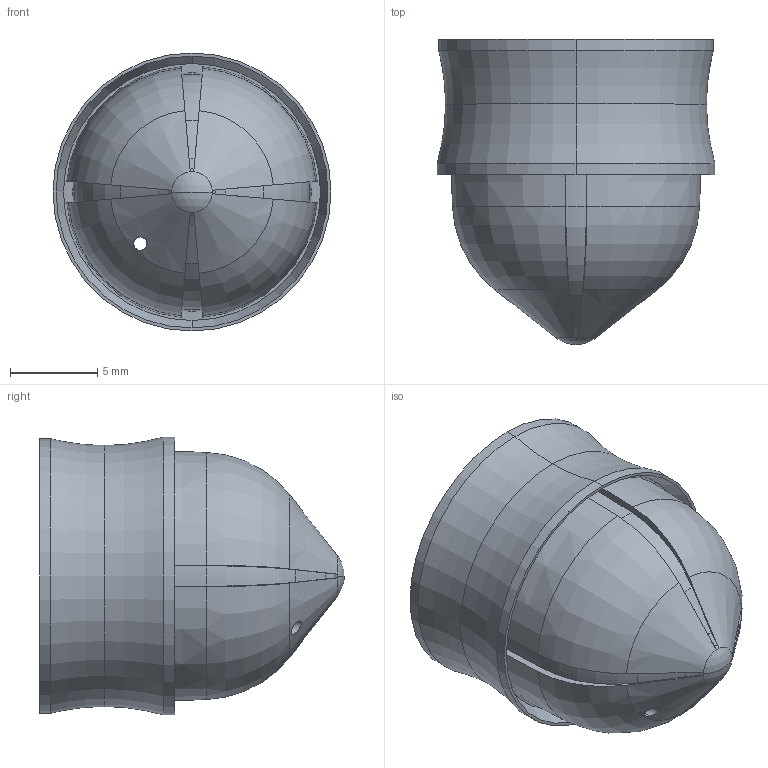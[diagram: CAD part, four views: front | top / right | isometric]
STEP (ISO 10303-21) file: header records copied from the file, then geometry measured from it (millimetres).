
FILE_DESCRIPTION (( 'STEP AP214' ), '1' );
FILE_NAME ('NORDSONEFD-7014425 PISTON O 10CC BL BARRIER.STEP', '2019-08-13T09:11:20', ( '' ), ( '' ), 'SwSTEP 2.0', 'SolidWorks 2019', '' );
FILE_SCHEMA (( 'AUTOMOTIVE_DESIGN' ));
Length unit declared in the file: inch
Products named in the file (1): NORDSONEFD-7014425 PISTON O 10CC BL BARRIER
Bounding box: 15.95 x 17.5 x 15.95 mm (x, y, z)
Volume: 667.5 mm3; surface area: 1834.5 mm2
Topology: 1 solids, 1 shells, 225 faces, 607 edges, 396 vertices
Faces by surface type: plane 69, bspline 50, torus 37, cone 35, cylinder 30, sphere 4
Entity records: 9824 total; most frequent: CARTESIAN_POINT 4498, ORIENTED_EDGE 1214, DIRECTION 954, EDGE_CURVE 607, VERTEX_POINT 396, AXIS2_PLACEMENT_3D 373, EDGE_LOOP 239, ADVANCED_FACE 225
